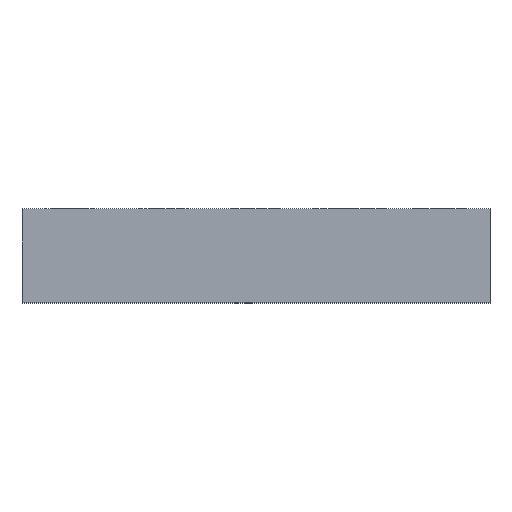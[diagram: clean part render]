
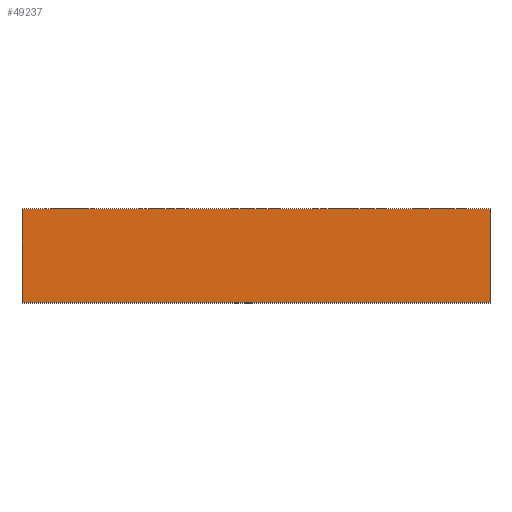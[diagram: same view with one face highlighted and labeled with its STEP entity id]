
A CAD part, top view. The second image highlights one B-rep face of the part: STEP entity #49237.
In plain terms, the highlighted planar face has unit normal (0, 0, 1).
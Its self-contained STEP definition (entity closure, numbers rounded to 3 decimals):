
#1239=DIRECTION('',(-1.,0.,0.));
#1240=VECTOR('',#1239,63.5);
#1241=CARTESIAN_POINT('',(0.,12.7,0.));
#1242=LINE('',#1241,#1240);
#1589=DIRECTION('',(0.,1.,0.));
#1590=VECTOR('',#1589,12.7);
#1591=CARTESIAN_POINT('',(0.,0.,0.));
#1592=LINE('',#1591,#1590);
#7213=DIRECTION('',(0.,-1.,0.));
#7214=VECTOR('',#7213,12.7);
#7215=CARTESIAN_POINT('',(-63.5,12.7,0.));
#7216=LINE('',#7215,#7214);
#7998=DIRECTION('',(-1.,0.,0.));
#7999=VECTOR('',#7998,63.5);
#8000=CARTESIAN_POINT('',(0.,0.,0.));
#8001=LINE('',#8000,#7999);
#33892=CARTESIAN_POINT('',(0.,12.7,0.));
#33893=VERTEX_POINT('',#33892);
#33894=CARTESIAN_POINT('',(-63.5,12.7,0.));
#33895=VERTEX_POINT('',#33894);
#33944=CARTESIAN_POINT('',(0.,0.,0.));
#33945=VERTEX_POINT('',#33944);
#33962=CARTESIAN_POINT('',(-63.5,0.,0.));
#33963=VERTEX_POINT('',#33962);
#49226=CARTESIAN_POINT('',(-63.5,0.,0.));
#49227=DIRECTION('',(0.,0.,1.));
#49228=DIRECTION('',(1.,0.,0.));
#49229=AXIS2_PLACEMENT_3D('',#49226,#49227,#49228);
#49230=PLANE('',#49229);
#49231=ORIENTED_EDGE('',*,*,#37564,.F.);
#49232=ORIENTED_EDGE('',*,*,#37767,.F.);
#49233=ORIENTED_EDGE('',*,*,#49218,.T.);
#49234=ORIENTED_EDGE('',*,*,#48022,.F.);
#49235=EDGE_LOOP('',(#49231,#49232,#49233,#49234));
#49236=FACE_OUTER_BOUND('',#49235,.F.);
#49237=ADVANCED_FACE('',(#49236),#49230,.T.);
#37564=EDGE_CURVE('',#33893,#33895,#1242,.T.);
#37767=EDGE_CURVE('',#33945,#33893,#1592,.T.);
#48022=EDGE_CURVE('',#33895,#33963,#7216,.T.);
#49218=EDGE_CURVE('',#33945,#33963,#8001,.T.);
